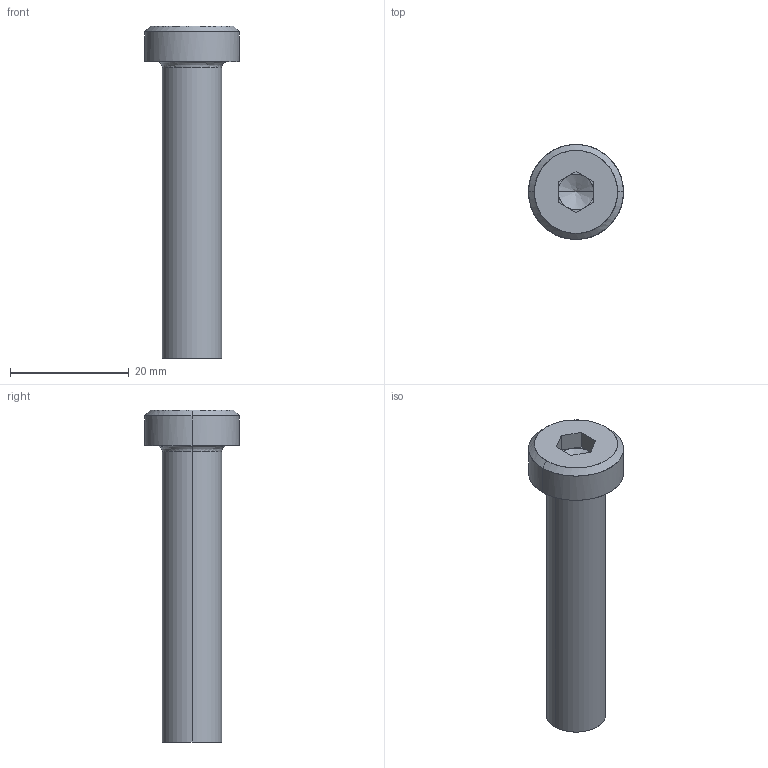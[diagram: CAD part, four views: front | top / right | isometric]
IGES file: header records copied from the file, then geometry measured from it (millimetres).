
Global section: file name: E:\UnigraphicsGraphicData\MISUMI_PRESS-PARTS\IGES\3d_sbtkn10-50_05168_r00.igs; native system: NX V5.0; preprocessor: UGS NX IGES V5.0; author: MISUMI; date: 20110105.162502; units: millimetre
Bounding box: 16 x 16 x 56 mm (x, y, z)
Surface area: 2653 mm2 (no closed solid volume)
Topology: 0 solids, 0 shells, 32 faces, 172 edges, 168 vertices
Faces by surface type: bspline 32
